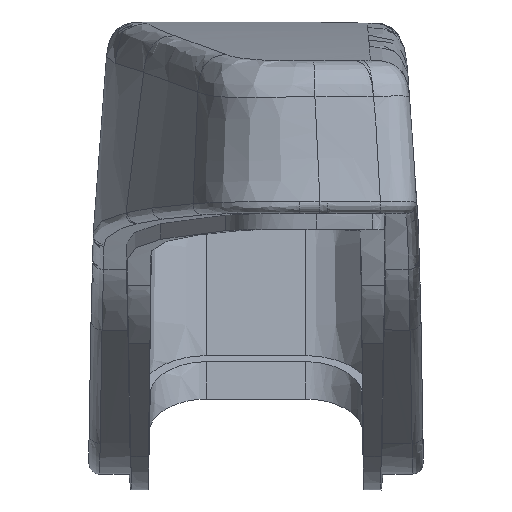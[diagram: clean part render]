
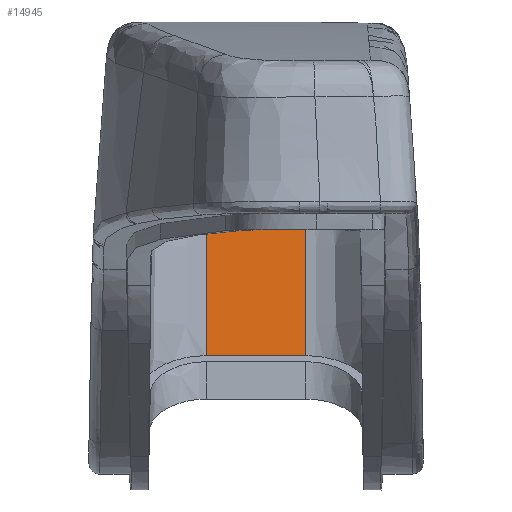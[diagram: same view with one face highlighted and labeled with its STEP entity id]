
A CAD part, left-side view. The second image highlights one B-rep face of the part: STEP entity #14945.
In plain terms, the highlighted planar face has unit normal (-0.997, 0, 0.079).
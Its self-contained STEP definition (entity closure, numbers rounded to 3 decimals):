
#8686=CARTESIAN_POINT('Vertex',(22.843,-450.,591.238)) ;
#8690=CARTESIAN_POINT('Control Point',(22.843,-431.,591.238)) ;
#8691=CARTESIAN_POINT('Control Point',(22.843,-437.334,591.238)) ;
#8692=CARTESIAN_POINT('Control Point',(22.843,-443.666,591.238)) ;
#8693=CARTESIAN_POINT('Control Point',(22.843,-450.,591.238)) ;
#8694=CARTESIAN_POINT('Vertex',(22.844,-431.,591.238)) ;
#14862=CARTESIAN_POINT('Vertex',(25.044,-450.,619.196)) ;
#14866=CARTESIAN_POINT('Control Point',(25.044,-450.,619.196)) ;
#14867=CARTESIAN_POINT('Control Point',(24.604,-450.,613.604)) ;
#14868=CARTESIAN_POINT('Control Point',(24.164,-450.,608.013)) ;
#14869=CARTESIAN_POINT('Control Point',(23.724,-450.,602.421)) ;
#14870=CARTESIAN_POINT('Control Point',(23.284,-450.,596.83)) ;
#14871=CARTESIAN_POINT('Control Point',(22.844,-450.,591.238)) ;
#14880=CARTESIAN_POINT('Axis2P3D Location',(25.237,-448.363,621.654)) ;
#14886=CARTESIAN_POINT('Control Point',(25.044,-431.,619.196)) ;
#14887=CARTESIAN_POINT('Control Point',(25.044,-432.9,619.196)) ;
#14888=CARTESIAN_POINT('Control Point',(25.044,-434.8,619.196)) ;
#14889=CARTESIAN_POINT('Control Point',(25.044,-436.7,619.196)) ;
#14890=CARTESIAN_POINT('Control Point',(25.044,-438.79,619.196)) ;
#14891=CARTESIAN_POINT('Control Point',(25.044,-440.88,619.196)) ;
#14892=CARTESIAN_POINT('Control Point',(25.044,-441.07,619.196)) ;
#14893=CARTESIAN_POINT('Control Point',(25.044,-441.45,619.196)) ;
#14894=CARTESIAN_POINT('Control Point',(25.044,-441.83,619.196)) ;
#14895=CARTESIAN_POINT('Control Point',(25.044,-442.02,619.196)) ;
#14896=CARTESIAN_POINT('Control Point',(25.044,-442.566,619.196)) ;
#14897=CARTESIAN_POINT('Control Point',(25.044,-443.113,619.196)) ;
#14898=CARTESIAN_POINT('Control Point',(25.044,-443.469,619.196)) ;
#14899=CARTESIAN_POINT('Control Point',(25.044,-443.849,619.196)) ;
#14900=CARTESIAN_POINT('Control Point',(25.044,-444.229,619.196)) ;
#14901=CARTESIAN_POINT('Control Point',(25.044,-444.253,619.196)) ;
#14902=CARTESIAN_POINT('Control Point',(25.044,-444.3,619.196)) ;
#14903=CARTESIAN_POINT('Control Point',(25.044,-444.348,619.196)) ;
#14904=CARTESIAN_POINT('Control Point',(25.044,-444.371,619.196)) ;
#14905=CARTESIAN_POINT('Control Point',(25.044,-444.728,619.196)) ;
#14906=CARTESIAN_POINT('Control Point',(25.044,-445.084,619.196)) ;
#14907=CARTESIAN_POINT('Control Point',(25.044,-445.416,619.196)) ;
#14908=CARTESIAN_POINT('Control Point',(25.044,-445.773,619.196)) ;
#14909=CARTESIAN_POINT('Control Point',(25.044,-446.129,619.196)) ;
#14910=CARTESIAN_POINT('Control Point',(25.044,-446.153,619.196)) ;
#14911=CARTESIAN_POINT('Control Point',(25.044,-446.2,619.196)) ;
#14912=CARTESIAN_POINT('Control Point',(25.044,-446.248,619.196)) ;
#14913=CARTESIAN_POINT('Control Point',(25.044,-446.271,619.196)) ;
#14914=CARTESIAN_POINT('Control Point',(25.044,-446.628,619.196)) ;
#14915=CARTESIAN_POINT('Control Point',(25.044,-446.984,619.196)) ;
#14916=CARTESIAN_POINT('Control Point',(25.044,-447.316,619.196)) ;
#14917=CARTESIAN_POINT('Control Point',(25.044,-447.673,619.196)) ;
#14918=CARTESIAN_POINT('Control Point',(25.044,-448.029,619.196)) ;
#14919=CARTESIAN_POINT('Control Point',(25.044,-448.053,619.196)) ;
#14920=CARTESIAN_POINT('Control Point',(25.044,-448.1,619.196)) ;
#14921=CARTESIAN_POINT('Control Point',(25.044,-448.148,619.196)) ;
#14922=CARTESIAN_POINT('Control Point',(25.044,-448.171,619.196)) ;
#14923=CARTESIAN_POINT('Control Point',(25.044,-448.528,619.196)) ;
#14924=CARTESIAN_POINT('Control Point',(25.044,-448.884,619.196)) ;
#14925=CARTESIAN_POINT('Control Point',(25.044,-449.216,619.196)) ;
#14926=CARTESIAN_POINT('Control Point',(25.044,-449.573,619.196)) ;
#14927=CARTESIAN_POINT('Control Point',(25.044,-449.929,619.196)) ;
#14928=CARTESIAN_POINT('Control Point',(25.044,-449.953,619.196)) ;
#14929=CARTESIAN_POINT('Control Point',(25.044,-449.976,619.196)) ;
#14930=CARTESIAN_POINT('Control Point',(25.044,-450.,619.196)) ;
#14931=CARTESIAN_POINT('Vertex',(25.044,-431.,619.196)) ;
#14934=CARTESIAN_POINT('Line Origine',(23.944,-431.,605.217)) ;
#14881=DIRECTION('Axis2P3D Direction',(0.997,0.,-0.078)) ;
#14882=DIRECTION('Axis2P3D XDirection',(0.,-1.,0.)) ;
#14935=DIRECTION('Vector Direction',(-0.078,0.,-0.997)) ;
#14883=AXIS2_PLACEMENT_3D('Plane Axis2P3D',#14880,#14881,#14882) ;
#14940=ORIENTED_EDGE('',*,*,#8696,.F.) ;
#14941=ORIENTED_EDGE('',*,*,#14872,.F.) ;
#14942=ORIENTED_EDGE('',*,*,#14933,.F.) ;
#14943=ORIENTED_EDGE('',*,*,#14938,.T.) ;
#14936=VECTOR('Line Direction',#14935,1.) ;
#14945=ADVANCED_FACE('\X2\51E04F554F53\X0\.3',(#14944),#14884,.F.) ;
#8689=B_SPLINE_CURVE_WITH_KNOTS('',3,(#8690,#8691,#8692,#8693),.UNSPECIFIED.,.F.,.U.,(4,4),(0.,26.873),.UNSPECIFIED.) ;
#14865=B_SPLINE_CURVE_WITH_KNOTS('',5,(#14866,#14867,#14868,#14869,#14870,#14871),.UNSPECIFIED.,.F.,.U.,(6,6),(2.466,30.51),.UNSPECIFIED.) ;
#14885=B_SPLINE_CURVE_WITH_KNOTS('',5,(#14886,#14887,#14888,#14889,#14890,#14891,#14892,#14893,#14894,#14895,#14896,#14897,#14898,#14899,#14900,#14901,#14902,#14903,#14904,#14905,#14906,#14907,#14908,#14909,#14910,#14911,#14912,#14913,#14914,#14915,#14916,#14917,#14918,#14919,#14920,#14921,#14922,#14923,#14924,#14925,#14926,#14927,#14928,#14929,#14930),.UNSPECIFIED.,.F.,.U.,(6,3,3,3,3,3,3,3,3,3,3,3,3,3,6),(0.,13.435,14.779,16.122,18.641,18.809,18.977,21.328,21.496,21.664,24.015,24.183,24.351,26.702,26.87),.UNSPECIFIED.) ;
#8696=EDGE_CURVE('',#8687,#8695,#8689,.F.) ;
#14872=EDGE_CURVE('',#14863,#8687,#14865,.T.) ;
#14933=EDGE_CURVE('',#14932,#14863,#14885,.T.) ;
#14938=EDGE_CURVE('',#14932,#8695,#14937,.T.) ;
#14939=EDGE_LOOP('',(#14940,#14941,#14942,#14943)) ;
#14944=FACE_OUTER_BOUND('',#14939,.T.) ;
#14937=LINE('Line',#14934,#14936) ;
#14884=PLANE('Plane',#14883) ;
#8687=VERTEX_POINT('',#8686) ;
#8695=VERTEX_POINT('',#8694) ;
#14863=VERTEX_POINT('',#14862) ;
#14932=VERTEX_POINT('',#14931) ;
